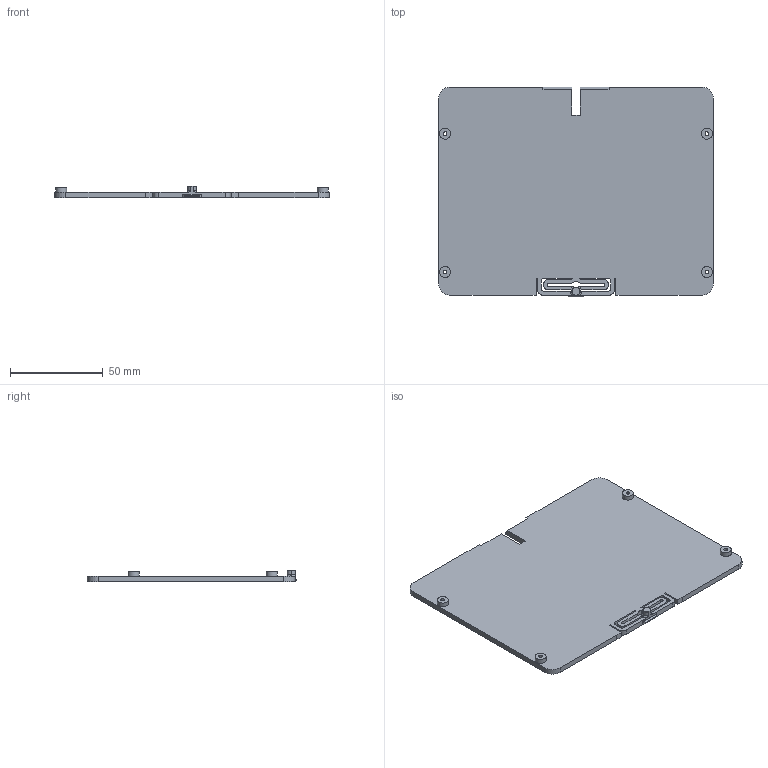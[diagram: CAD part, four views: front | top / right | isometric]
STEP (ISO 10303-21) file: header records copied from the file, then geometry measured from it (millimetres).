
FILE_DESCRIPTION(('HOOPS Exchange Step'),'2;1');
FILE_NAME('/private/var/mobile/Containers/Data/Application/FEB09317-4D42-4244-84D5-4744026CA7E9/tmp/export/temp_export','2021-11-26T22:09:58+01:00',('mobile'),('Shapr3D Limited'),'HOOPS Exchange 2021.1','Shapr3D','Authorized');
FILE_SCHEMA( ('AP203_CONFIGURATION_CONTROLLED_3D_DESIGN_OF_MECHANICAL_PARTS_AND_ASSEMBLIES_MIM_LF') );
Length unit declared in the file: millimetre
Products named in the file (1): /private/var/mobile/Containers/Data/Application/FEB09317-4D42-4244-84D5-4744026CA7E9/tmp/FD3EAB79-1851-4B95-B0F1-6F1D660B05DF.tmp
Bounding box: 148 x 112.9 x 6.3 mm (x, y, z)
Volume: 49239 mm3; surface area: 35367.7 mm2
Topology: 1 solids, 1 shells, 100 faces, 295 edges, 199 vertices
Faces by surface type: plane 52, cylinder 37, torus 6, bspline 5
Full cylindrical faces by diameter (mm): 2 x4, 6 x4
Entity records: 3927 total; most frequent: CARTESIAN_POINT 1126, ORIENTED_EDGE 590, DIRECTION 584, EDGE_CURVE 295, AXIS2_PLACEMENT_3D 206, VERTEX_POINT 199, VECTOR 172, LINE 172
